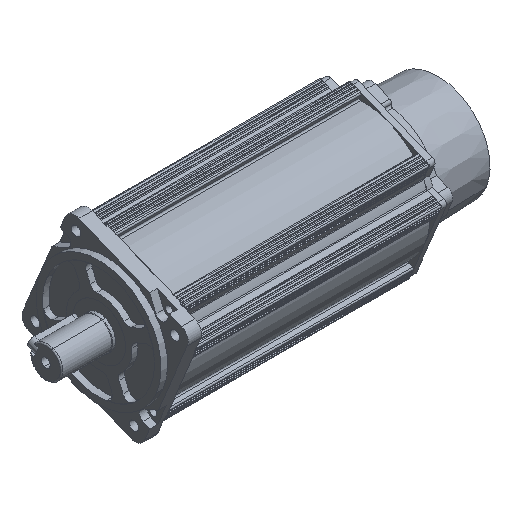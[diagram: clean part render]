
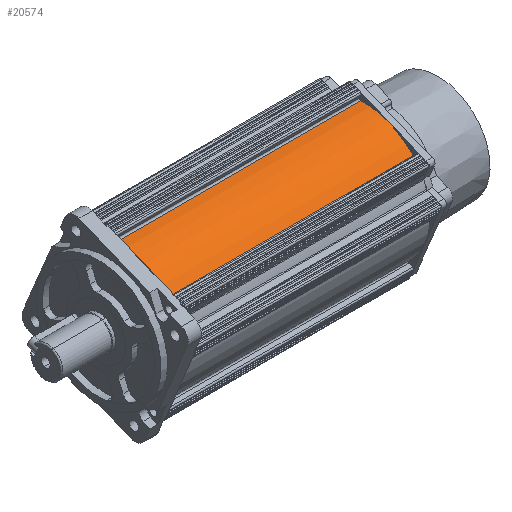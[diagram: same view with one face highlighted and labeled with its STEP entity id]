
A CAD part, isometric view. The second image highlights one B-rep face of the part: STEP entity #20574.
In plain terms, the highlighted cylindrical face has radius 50 mm (diameter 100 mm), a partial arc.
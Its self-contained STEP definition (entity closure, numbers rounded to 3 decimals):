
#1434 = EDGE_CURVE ( 'NONE', #17610, #11553, #10482, .T. ) ;
#2055 = LINE ( 'NONE', #7692, #17695 ) ;
#2944 = EDGE_CURVE ( 'NONE', #21784, #11553, #10085, .T. ) ;
#5328 = DIRECTION ( 'NONE',  ( -1., 0., 0. ) ) ;
#5367 = DIRECTION ( 'NONE',  ( 1., 0., 0. ) ) ;
#5751 = VERTEX_POINT ( 'NONE', #8686 ) ;
#6264 = CARTESIAN_POINT ( 'NONE',  ( 127.605, -126.186, 44.807 ) ) ;
#6979 = DIRECTION ( 'NONE',  ( -1., 0., 0. ) ) ;
#7086 = CARTESIAN_POINT ( 'NONE',  ( 313.605, -126.188, 44.806 ) ) ;
#7098 = ORIENTED_EDGE ( 'NONE', *, *, #2944, .F. ) ;
#7692 = CARTESIAN_POINT ( 'NONE',  ( 313.605, -163.346, 78.261 ) ) ;
#8386 = DIRECTION ( 'NONE',  ( -1., 0., 0. ) ) ;
#8686 = CARTESIAN_POINT ( 'NONE',  ( 313.605, -163.346, 78.261 ) ) ;
#8924 = EDGE_LOOP ( 'NONE', ( #21184, #13744, #7098, #16804 ) ) ;
#10085 = CIRCLE ( 'NONE', #12853, 50. ) ;
#10482 = LINE ( 'NONE', #21504, #16867 ) ;
#11215 = CARTESIAN_POINT ( 'NONE',  ( 127.606, -123.475, 94.733 ) ) ;
#11416 = DIRECTION ( 'NONE',  ( 0., 0.924, 0.382 ) ) ;
#11539 = CARTESIAN_POINT ( 'NONE',  ( 313.606, -123.477, 94.732 ) ) ;
#11553 = VERTEX_POINT ( 'NONE', #11215 ) ;
#12853 = AXIS2_PLACEMENT_3D ( 'NONE', #6264, #8386, #24670 ) ;
#13744 = ORIENTED_EDGE ( 'NONE', *, *, #1434, .T. ) ;
#13923 = AXIS2_PLACEMENT_3D ( 'NONE', #14428, #22483, #20407 ) ;
#14428 = CARTESIAN_POINT ( 'NONE',  ( 313.605, -126.188, 44.806 ) ) ;
#15792 = CYLINDRICAL_SURFACE ( 'NONE', #24714, 50. ) ;
#16804 = ORIENTED_EDGE ( 'NONE', *, *, #18214, .T. ) ;
#16867 = VECTOR ( 'NONE', #5328, 1000. ) ;
#17610 = VERTEX_POINT ( 'NONE', #11539 ) ;
#17695 = VECTOR ( 'NONE', #5367, 1000. ) ;
#18214 = EDGE_CURVE ( 'NONE', #21784, #5751, #2055, .T. ) ;
#20119 = CARTESIAN_POINT ( 'NONE',  ( 127.605, -163.344, 78.262 ) ) ;
#20407 = DIRECTION ( 'NONE',  ( 0., 0.924, 0.382 ) ) ;
#20574 = ADVANCED_FACE ( 'NONE', ( #22536 ), #15792, .T. ) ;
#21184 = ORIENTED_EDGE ( 'NONE', *, *, #21311, .T. ) ;
#21311 = EDGE_CURVE ( 'NONE', #5751, #17610, #22182, .T. ) ;
#21504 = CARTESIAN_POINT ( 'NONE',  ( 313.606, -123.477, 94.732 ) ) ;
#21784 = VERTEX_POINT ( 'NONE', #20119 ) ;
#22182 = CIRCLE ( 'NONE', #13923, 50. ) ;
#22483 = DIRECTION ( 'NONE',  ( -1., 0., 0. ) ) ;
#22536 = FACE_OUTER_BOUND ( 'NONE', #8924, .T. ) ;
#24670 = DIRECTION ( 'NONE',  ( 0., 0.924, 0.382 ) ) ;
#24714 = AXIS2_PLACEMENT_3D ( 'NONE', #7086, #6979, #11416 ) ;
